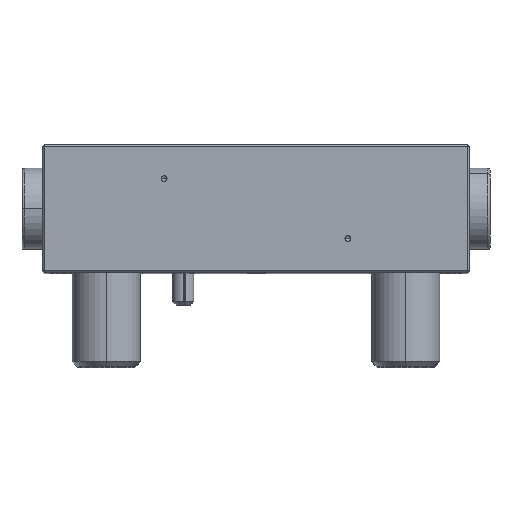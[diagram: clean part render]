
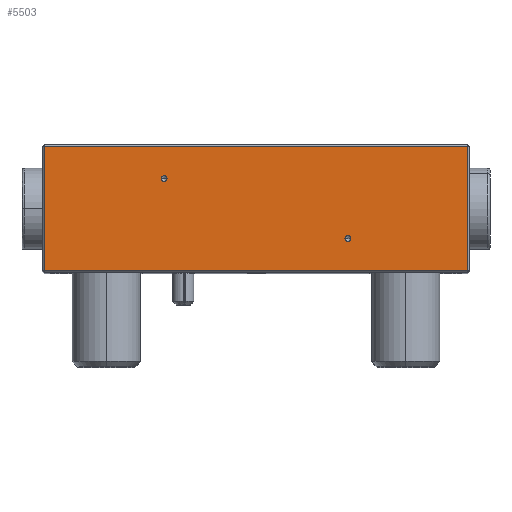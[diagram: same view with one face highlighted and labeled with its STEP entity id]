
A CAD part, top view. The second image highlights one B-rep face of the part: STEP entity #5503.
In plain terms, the highlighted planar face has unit normal (0, 0, 1).
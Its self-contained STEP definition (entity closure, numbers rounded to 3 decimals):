
#55 = VERTEX_POINT ( 'NONE', #9973 ) ;
#143 = ORIENTED_EDGE ( 'NONE', *, *, #5363, .F. ) ;
#252 = CARTESIAN_POINT ( 'NONE',  ( 72.2, 8., 0. ) ) ;
#602 = EDGE_CURVE ( 'NONE', #3004, #3727, #10400, .T. ) ;
#636 = CARTESIAN_POINT ( 'NONE',  ( 28.5, 22., 0. ) ) ;
#856 = ORIENTED_EDGE ( 'NONE', *, *, #12881, .F. ) ;
#1002 = DIRECTION ( 'NONE',  ( 1., 0., 0. ) ) ;
#1037 = DIRECTION ( 'NONE',  ( 0., 0., 1. ) ) ;
#1066 = ORIENTED_EDGE ( 'NONE', *, *, #12273, .T. ) ;
#1074 = CARTESIAN_POINT ( 'NONE',  ( 28.5, 22., 0. ) ) ;
#1079 = CIRCLE ( 'NONE', #8161, 0.7 ) ;
#1098 = VERTEX_POINT ( 'NONE', #10984 ) ;
#1198 = ORIENTED_EDGE ( 'NONE', *, *, #6554, .T. ) ;
#1217 = EDGE_CURVE ( 'NONE', #4724, #3358, #5561, .T. ) ;
#1338 = EDGE_LOOP ( 'NONE', ( #6377, #3055 ) ) ;
#1454 = EDGE_LOOP ( 'NONE', ( #143, #856 ) ) ;
#1559 = EDGE_LOOP ( 'NONE', ( #1198, #9113, #1066, #1604 ) ) ;
#1604 = ORIENTED_EDGE ( 'NONE', *, *, #1217, .T. ) ;
#1626 = FACE_OUTER_BOUND ( 'NONE', #1559, .T. ) ;
#1651 = FACE_BOUND ( 'NONE', #1338, .T. ) ;
#1745 = CARTESIAN_POINT ( 'NONE',  ( 29.2, 22., 0. ) ) ;
#1801 = FACE_BOUND ( 'NONE', #1454, .T. ) ;
#2039 = DIRECTION ( 'NONE',  ( 0., -1., 0. ) ) ;
#2065 = EDGE_CURVE ( 'NONE', #1098, #11724, #1079, .T. ) ;
#2203 = EDGE_CURVE ( 'NONE', #11724, #1098, #6723, .T. ) ;
#2414 = AXIS2_PLACEMENT_3D ( 'NONE', #6238, #6213, #6175 ) ;
#2474 = VECTOR ( 'NONE', #10077, 1000. ) ;
#2559 = CIRCLE ( 'NONE', #8099, 0.7 ) ;
#2958 = AXIS2_PLACEMENT_3D ( 'NONE', #5843, #8719, #5698 ) ;
#3004 = VERTEX_POINT ( 'NONE', #12638 ) ;
#3055 = ORIENTED_EDGE ( 'NONE', *, *, #2065, .F. ) ;
#3358 = VERTEX_POINT ( 'NONE', #10999 ) ;
#3700 = CARTESIAN_POINT ( 'NONE',  ( 0., 29.5, 0. ) ) ;
#3727 = VERTEX_POINT ( 'NONE', #4400 ) ;
#3977 = DIRECTION ( 'NONE',  ( 0., 0., 1. ) ) ;
#4400 = CARTESIAN_POINT ( 'NONE',  ( 99.5, 29.5, 0. ) ) ;
#4464 = CARTESIAN_POINT ( 'NONE',  ( 0.5, 29.5, 0. ) ) ;
#4594 = CARTESIAN_POINT ( 'NONE',  ( 99.5, 30., 0. ) ) ;
#4724 = VERTEX_POINT ( 'NONE', #4464 ) ;
#5363 = EDGE_CURVE ( 'NONE', #12815, #55, #2559, .T. ) ;
#5503 = ADVANCED_FACE ( 'NONE', ( #1626, #1801, #1651 ), #6545, .F. ) ;
#5545 = VECTOR ( 'NONE', #2039, 1000. ) ;
#5561 = LINE ( 'NONE', #8476, #5545 ) ;
#5698 = DIRECTION ( 'NONE',  ( -1., 0., 0. ) ) ;
#5843 = CARTESIAN_POINT ( 'NONE',  ( 0., 30., 0. ) ) ;
#5870 = VECTOR ( 'NONE', #10405, 1000. ) ;
#6175 = DIRECTION ( 'NONE',  ( 1., 0., 0. ) ) ;
#6213 = DIRECTION ( 'NONE',  ( 0., 0., 1. ) ) ;
#6238 = CARTESIAN_POINT ( 'NONE',  ( 71.5, 8., 0. ) ) ;
#6377 = ORIENTED_EDGE ( 'NONE', *, *, #2203, .F. ) ;
#6545 = PLANE ( 'NONE',  #2958 ) ;
#6554 = EDGE_CURVE ( 'NONE', #3358, #3004, #11753, .T. ) ;
#6723 = CIRCLE ( 'NONE', #2414, 0.7 ) ;
#7887 = DIRECTION ( 'NONE',  ( 1., 0., 0. ) ) ;
#7911 = DIRECTION ( 'NONE',  ( 0., 0., 1. ) ) ;
#7951 = CARTESIAN_POINT ( 'NONE',  ( 71.5, 8., 0. ) ) ;
#8090 = LINE ( 'NONE', #3700, #2474 ) ;
#8099 = AXIS2_PLACEMENT_3D ( 'NONE', #1074, #1037, #1002 ) ;
#8161 = AXIS2_PLACEMENT_3D ( 'NONE', #7951, #7911, #7887 ) ;
#8476 = CARTESIAN_POINT ( 'NONE',  ( 0.5, 30., 0. ) ) ;
#8719 = DIRECTION ( 'NONE',  ( 0., 0., -1. ) ) ;
#9113 = ORIENTED_EDGE ( 'NONE', *, *, #602, .T. ) ;
#9540 = DIRECTION ( 'NONE',  ( 1., 0., 0. ) ) ;
#9973 = CARTESIAN_POINT ( 'NONE',  ( 27.8, 22., 0. ) ) ;
#10077 = DIRECTION ( 'NONE',  ( -1., 0., 0. ) ) ;
#10288 = AXIS2_PLACEMENT_3D ( 'NONE', #636, #3977, #9540 ) ;
#10400 = LINE ( 'NONE', #4594, #5870 ) ;
#10405 = DIRECTION ( 'NONE',  ( 0., 1., 0. ) ) ;
#10984 = CARTESIAN_POINT ( 'NONE',  ( 70.8, 8., 0. ) ) ;
#10999 = CARTESIAN_POINT ( 'NONE',  ( 0.5, 0.5, 0. ) ) ;
#11211 = CIRCLE ( 'NONE', #10288, 0.7 ) ;
#11410 = DIRECTION ( 'NONE',  ( 1., 0., 0. ) ) ;
#11448 = CARTESIAN_POINT ( 'NONE',  ( 100., 0.5, 0. ) ) ;
#11724 = VERTEX_POINT ( 'NONE', #252 ) ;
#11753 = LINE ( 'NONE', #11448, #11838 ) ;
#11838 = VECTOR ( 'NONE', #11410, 1000. ) ;
#12273 = EDGE_CURVE ( 'NONE', #3727, #4724, #8090, .T. ) ;
#12638 = CARTESIAN_POINT ( 'NONE',  ( 99.5, 0.5, 0. ) ) ;
#12815 = VERTEX_POINT ( 'NONE', #1745 ) ;
#12881 = EDGE_CURVE ( 'NONE', #55, #12815, #11211, .T. ) ;
